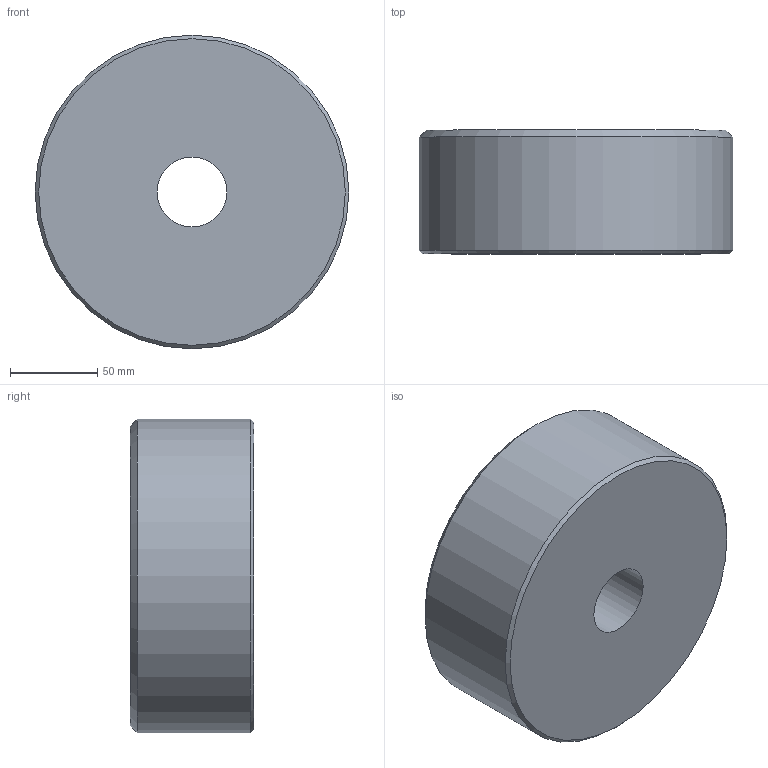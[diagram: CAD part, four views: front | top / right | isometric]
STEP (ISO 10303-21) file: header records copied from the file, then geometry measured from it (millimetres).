
FILE_DESCRIPTION(/* description */ (''),/* implementation_level */ '2;1');
FILE_NAME(/* name */ 'C:\Users\stagistaCAD\Desktop\00\00002170.stp',/* time_stamp */ '2018-06-18T10:03:40+02:00',/* author */ ('stagistacad'),/* organization */ (''),/* preprocessor_version */ 'ST-DEVELOPER v15.6',/* originating_system */ 'Autodesk Inventor 2015',/* authorisation */ '');
FILE_SCHEMA (('AUTOMOTIVE_DESIGN { 1 0 10303 214 3 1 1 }'));
Length unit declared in the file: millimetre
Products named in the file (1): 00002170
Bounding box: 180 x 71 x 180 mm (x, y, z)
Volume: 1711929.2 mm3; surface area: 95438.7 mm2
Topology: 1 solids, 1 shells, 6 faces, 10 edges, 6 vertices
Faces by surface type: plane 2, cylinder 2, cone 2
Full cylindrical faces by diameter (mm): 40 x1, 180 x1
Entity records: 152 total; most frequent: DIRECTION 26, CARTESIAN_POINT 19, AXIS2_PLACEMENT_3D 13, EDGE_LOOP 12, ORIENTED_EDGE 12, FACE_BOUND 6, FACE_OUTER_BOUND 6, CIRCLE 6
